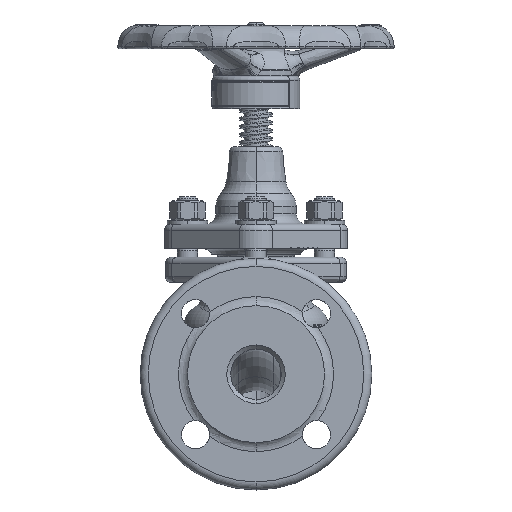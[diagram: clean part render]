
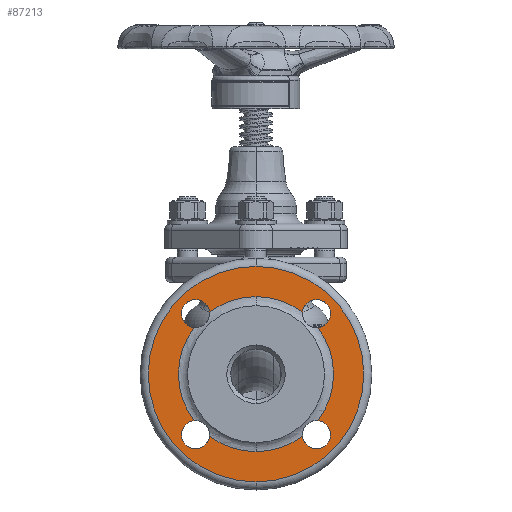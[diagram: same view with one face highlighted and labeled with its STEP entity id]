
A CAD part, left-side view. The second image highlights one B-rep face of the part: STEP entity #87213.
In plain terms, the highlighted planar face has unit normal (-1, 0, 0).
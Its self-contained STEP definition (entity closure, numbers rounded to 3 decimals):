
#24048=CARTESIAN_POINT('',(-78.,0.,0.));
#24049=DIRECTION('',(1.,0.,0.));
#24050=DIRECTION('',(0.,0.,-1.));
#24051=AXIS2_PLACEMENT_3D('',#24048,#24049,#24050);
#24053=CARTESIAN_POINT('',(-78.,0.,0.));
#24054=DIRECTION('',(1.,0.,0.));
#24055=DIRECTION('',(0.,0.,1.));
#24056=AXIS2_PLACEMENT_3D('',#24053,#24054,#24055);
#24058=CARTESIAN_POINT('',(-78.,-30.052,30.052));
#24059=DIRECTION('',(-1.,0.,0.));
#24060=DIRECTION('',(0.,-1.,0.));
#24061=AXIS2_PLACEMENT_3D('',#24058,#24059,#24060);
#24063=CARTESIAN_POINT('',(-78.,0.,0.));
#24064=DIRECTION('',(1.,0.,0.));
#24065=DIRECTION('',(0.,0.,1.));
#24066=AXIS2_PLACEMENT_3D('',#24063,#24064,#24065);
#24068=CARTESIAN_POINT('',(-78.,0.,0.));
#24069=DIRECTION('',(-1.,0.,0.));
#24070=DIRECTION('',(0.,0.,1.));
#24071=AXIS2_PLACEMENT_3D('',#24068,#24069,#24070);
#24073=CARTESIAN_POINT('',(-78.,30.052,30.052));
#24074=DIRECTION('',(-1.,0.,0.));
#24075=DIRECTION('',(0.,-0.995,0.103));
#24076=AXIS2_PLACEMENT_3D('',#24073,#24074,#24075);
#24078=CARTESIAN_POINT('',(-78.,30.052,30.052));
#24079=DIRECTION('',(-1.,0.,0.));
#24080=DIRECTION('',(0.,1.,0.));
#24081=AXIS2_PLACEMENT_3D('',#24078,#24079,#24080);
#24083=CARTESIAN_POINT('',(-78.,0.,0.));
#24084=DIRECTION('',(-1.,0.,0.));
#24085=DIRECTION('',(0.,0.8,0.6));
#24086=AXIS2_PLACEMENT_3D('',#24083,#24084,#24085);
#24088=CARTESIAN_POINT('',(-78.,30.052,-30.052));
#24089=DIRECTION('',(-1.,0.,0.));
#24090=DIRECTION('',(0.,0.103,0.995));
#24091=AXIS2_PLACEMENT_3D('',#24088,#24089,#24090);
#24093=CARTESIAN_POINT('',(-78.,30.052,-30.052));
#24094=DIRECTION('',(-1.,0.,0.));
#24095=DIRECTION('',(0.,1.,0.));
#24096=AXIS2_PLACEMENT_3D('',#24093,#24094,#24095);
#24098=CARTESIAN_POINT('',(-78.,0.,0.));
#24099=DIRECTION('',(-1.,0.,0.));
#24100=DIRECTION('',(0.,0.6,-0.8));
#24101=AXIS2_PLACEMENT_3D('',#24098,#24099,#24100);
#24103=CARTESIAN_POINT('',(-78.,0.,0.));
#24104=DIRECTION('',(1.,0.,0.));
#24105=DIRECTION('',(0.,-0.6,-0.8));
#24106=AXIS2_PLACEMENT_3D('',#24103,#24104,#24105);
#24108=CARTESIAN_POINT('',(-78.,-30.052,-30.052));
#24109=DIRECTION('',(-1.,0.,0.));
#24110=DIRECTION('',(0.,0.995,-0.103));
#24111=AXIS2_PLACEMENT_3D('',#24108,#24109,#24110);
#24113=CARTESIAN_POINT('',(-78.,-30.052,-30.052));
#24114=DIRECTION('',(-1.,0.,0.));
#24115=DIRECTION('',(0.,-1.,0.));
#24116=AXIS2_PLACEMENT_3D('',#24113,#24114,#24115);
#24118=CARTESIAN_POINT('',(-78.,0.,0.));
#24119=DIRECTION('',(1.,0.,0.));
#24120=DIRECTION('',(0.,-0.8,0.6));
#24121=AXIS2_PLACEMENT_3D('',#24118,#24119,#24120);
#24123=CARTESIAN_POINT('',(-78.,-30.052,30.052));
#24124=DIRECTION('',(-1.,0.,0.));
#24125=DIRECTION('',(0.,-0.103,-0.995));
#24126=AXIS2_PLACEMENT_3D('',#24123,#24124,#24125);
#24255=CARTESIAN_POINT('',(-78.,30.773,-23.089));
#24335=CARTESIAN_POINT('',(-78.,30.773,23.089));
#24337=CARTESIAN_POINT('',(-78.,23.089,30.773));
#24354=CARTESIAN_POINT('',(-78.,23.089,-30.773));
#38807=CARTESIAN_POINT('',(-78.,0.,-53.5));
#38808=CARTESIAN_POINT('',(-78.,0.,53.5));
#38809=VERTEX_POINT('',#38807);
#38810=VERTEX_POINT('',#38808);
#38906=CARTESIAN_POINT('',(-78.,0.,38.472));
#38907=VERTEX_POINT('',#38906);
#38908=CARTESIAN_POINT('',(-78.,0.,-38.472));
#38909=VERTEX_POINT('',#38908);
#38976=VERTEX_POINT('',#24337);
#38978=VERTEX_POINT('',#24335);
#38979=CARTESIAN_POINT('',(-78.,37.052,30.052));
#38980=VERTEX_POINT('',#38979);
#38985=VERTEX_POINT('',#24255);
#38987=VERTEX_POINT('',#24354);
#38988=CARTESIAN_POINT('',(-78.,37.052,-30.052));
#38989=VERTEX_POINT('',#38988);
#38994=CARTESIAN_POINT('',(-78.,-37.052,-30.052));
#38995=CARTESIAN_POINT('',(-78.,-30.773,-23.089));
#38996=VERTEX_POINT('',#38994);
#38997=VERTEX_POINT('',#38995);
#38998=CARTESIAN_POINT('',(-78.,-23.089,-30.773));
#38999=VERTEX_POINT('',#38998);
#39005=CARTESIAN_POINT('',(-78.,-37.052,30.052));
#39006=CARTESIAN_POINT('',(-78.,-23.089,30.773));
#39007=VERTEX_POINT('',#39005);
#39008=VERTEX_POINT('',#39006);
#39009=CARTESIAN_POINT('',(-78.,-30.773,23.089));
#39010=VERTEX_POINT('',#39009);
#87174=CARTESIAN_POINT('',(-78.,0.,0.));
#87175=DIRECTION('',(-1.,0.,0.));
#87176=DIRECTION('',(0.,0.,1.));
#87177=AXIS2_PLACEMENT_3D('',#87174,#87175,#87176);
#87178=PLANE('',#87177);
#87179=ORIENTED_EDGE('',*,*,#87156,.T.);
#87180=ORIENTED_EDGE('',*,*,#87141,.T.);
#87181=EDGE_LOOP('',(#87179,#87180));
#87182=FACE_OUTER_BOUND('',#87181,.F.);
#87184=ORIENTED_EDGE('',*,*,#87183,.T.);
#87186=ORIENTED_EDGE('',*,*,#87185,.F.);
#87188=ORIENTED_EDGE('',*,*,#87187,.T.);
#87190=ORIENTED_EDGE('',*,*,#87189,.T.);
#87192=ORIENTED_EDGE('',*,*,#87191,.T.);
#87194=ORIENTED_EDGE('',*,*,#87193,.T.);
#87196=ORIENTED_EDGE('',*,*,#87195,.T.);
#87198=ORIENTED_EDGE('',*,*,#87197,.T.);
#87200=ORIENTED_EDGE('',*,*,#87199,.T.);
#87202=ORIENTED_EDGE('',*,*,#87201,.F.);
#87204=ORIENTED_EDGE('',*,*,#87203,.T.);
#87206=ORIENTED_EDGE('',*,*,#87205,.T.);
#87208=ORIENTED_EDGE('',*,*,#87207,.F.);
#87210=ORIENTED_EDGE('',*,*,#87209,.T.);
#87211=EDGE_LOOP('',(#87184,#87186,#87188,#87190,#87192,#87194,#87196,#87198,
#87200,#87202,#87204,#87206,#87208,#87210));
#87212=FACE_BOUND('',#87211,.F.);
#87213=ADVANCED_FACE('',(#87182,#87212),#87178,.T.);
#24052=CIRCLE('',#24051,53.5);
#24057=CIRCLE('',#24056,53.5);
#24062=CIRCLE('',#24061,7.);
#24067=CIRCLE('',#24066,38.472);
#24072=CIRCLE('',#24071,38.472);
#24077=CIRCLE('',#24076,7.);
#24082=CIRCLE('',#24081,7.);
#24087=CIRCLE('',#24086,38.472);
#24092=CIRCLE('',#24091,7.);
#24097=CIRCLE('',#24096,7.);
#24102=CIRCLE('',#24101,38.472);
#24107=CIRCLE('',#24106,38.472);
#24112=CIRCLE('',#24111,7.);
#24117=CIRCLE('',#24116,7.);
#24122=CIRCLE('',#24121,38.472);
#24127=CIRCLE('',#24126,7.);
#87141=EDGE_CURVE('',#38810,#38809,#24057,.T.);
#87156=EDGE_CURVE('',#38809,#38810,#24052,.T.);
#87183=EDGE_CURVE('',#39007,#39008,#24062,.T.);
#87185=EDGE_CURVE('',#38907,#39008,#24067,.T.);
#87187=EDGE_CURVE('',#38907,#38976,#24072,.T.);
#87189=EDGE_CURVE('',#38976,#38980,#24077,.T.);
#87191=EDGE_CURVE('',#38980,#38978,#24082,.T.);
#87193=EDGE_CURVE('',#38978,#38985,#24087,.T.);
#87195=EDGE_CURVE('',#38985,#38989,#24092,.T.);
#87197=EDGE_CURVE('',#38989,#38987,#24097,.T.);
#87199=EDGE_CURVE('',#38987,#38909,#24102,.T.);
#87201=EDGE_CURVE('',#38999,#38909,#24107,.T.);
#87203=EDGE_CURVE('',#38999,#38996,#24112,.T.);
#87205=EDGE_CURVE('',#38996,#38997,#24117,.T.);
#87207=EDGE_CURVE('',#39010,#38997,#24122,.T.);
#87209=EDGE_CURVE('',#39010,#39007,#24127,.T.);
